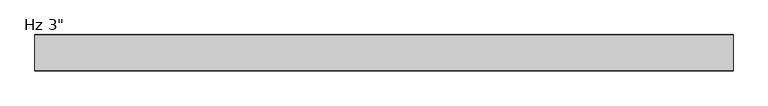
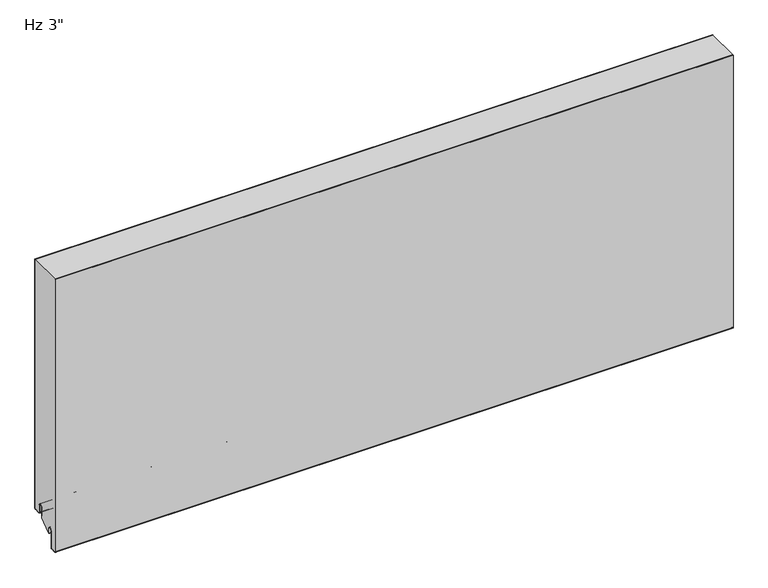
"""IFC4 building model written with IfcOpenShell, lengths in millimetres: plate geometry."""

import ifcopenshell
import ifcopenshell.guid

model = None  # the IFC model being written
_history = None  # IfcOwnerHistory: only IFC2X3 demands one
_inside = {}  # id of a spatial element -> (the spatial element, [elements in it])
_under = {}  # id of a project, library or spatial element -> (it, [spatial elements below it])
_declared = {}  # id of a project -> (the project, [libraries it declares])
_typed = {}  # id of a type object -> (the type object, [elements of that type])
_made_of = {}  # id of a material, layer set ... -> (it, [elements and type objects made of it])


def new_model(schema):
    """Start an empty IFC model of exactly this schema.

    Asked for "IFC4X3", IfcOpenShell would pick the latest addendum, in which some entities
    have other attributes; the version numbers below select the first issue.
    IFC2X3 requires an IfcOwnerHistory on every rooted entity: one is made here for all.
    """
    global model, _history
    if schema == "IFC4X3":
        model = ifcopenshell.file(schema_version=(4, 3, 0, 0))
    else:
        model = ifcopenshell.file(schema=schema)
    _inside.clear()
    _under.clear()
    _declared.clear()
    _typed.clear()
    _made_of.clear()
    _history = None
    if model.schema == "IFC2X3":
        org = make("IfcOrganization", Name="unknown")
        user = make(
            "IfcPersonAndOrganization",
            ThePerson=make("IfcPerson", FamilyName="unknown"),
            TheOrganization=org,
        )
        app = make(
            "IfcApplication",
            ApplicationDeveloper=org,
            Version="unknown",
            ApplicationFullName="unknown",
            ApplicationIdentifier="unknown",
        )
        _history = make(
            "IfcOwnerHistory",
            OwningUser=user,
            OwningApplication=app,
            ChangeAction="ADDED",
            CreationDate=0,
        )
    return model


def make(cls, **values):
    """One entity of the class cls with the attributes given. An attribute that is None is left unset."""
    return model.create_entity(
        cls, **{name: value for name, value in values.items() if value is not None}
    )


def rooted(cls, **values):
    """An entity with a GlobalId (a new one), such as an element, a storey or a relation."""
    return make(cls, GlobalId=ifcopenshell.guid.new(), OwnerHistory=_history, **values)


def si_unit(unit_type, name, prefix=None):
    """IfcSIUnit, for example si_unit("LENGTHUNIT", "METRE", prefix="MILLI")."""
    return make("IfcSIUnit", UnitType=unit_type, Prefix=prefix, Name=name)


def assignment(units):
    """IfcUnitAssignment: the units of a project."""
    return None if units is None else make("IfcUnitAssignment", Units=units)


def point(xyz):
    """IfcCartesianPoint."""
    return None if xyz is None else make("IfcCartesianPoint", Coordinates=xyz)


def direction(xyz):
    """IfcDirection."""
    return None if xyz is None else make("IfcDirection", DirectionRatios=xyz)


def frame(location, z_axis=None, x_axis=None):
    """IfcAxis2Placement3D, a coordinate frame: its origin and axes. An axis left out is left unset."""
    return make(
        "IfcAxis2Placement3D",
        Location=point(location),
        Axis=direction(z_axis),
        RefDirection=direction(x_axis),
    )


def frame_2d(location, x_axis=None):
    """IfcAxis2Placement2D, a coordinate frame in the plane: its origin and x axis."""
    return make(
        "IfcAxis2Placement2D", Location=point(location), RefDirection=direction(x_axis)
    )


def origin():
    """The frame at (0, 0, 0) with its axes left unset."""
    return frame((0.0, 0.0, 0.0))


def place(relative_to, where):
    """IfcLocalPlacement: puts the frame where relative to a parent placement (None: the world)."""
    return make(
        "IfcLocalPlacement", PlacementRelTo=relative_to, RelativePlacement=where
    )


def context(
    kind, dimensions, precision=None, world=None, true_north=None, identifier=None
):
    """IfcGeometricRepresentationContext, for example the 3D "Model" context."""
    return make(
        "IfcGeometricRepresentationContext",
        ContextIdentifier=identifier,
        ContextType=kind,
        CoordinateSpaceDimension=dimensions,
        Precision=precision,
        WorldCoordinateSystem=world,
        TrueNorth=true_north,
    )


def project(units=None, contexts=None):
    """IfcProject with its units and contexts."""
    return rooted(
        "IfcProject",
        Name="project",
        RepresentationContexts=contexts,
        UnitsInContext=assignment(units),
    )


def spatial(cls, under=None, at=None, **own):
    """A site, building, storey or space (cls), placed at a placement, below another one or the project."""
    s = rooted(cls, ObjectPlacement=at, **own)
    if under is not None:
        _under.setdefault(under.id(), (under, []))[1].append(s)
    return s


def polyline(points):
    """IfcPolyline through the points."""
    return make("IfcPolyline", Points=[point(p) for p in points])


def circle_curve(where, radius):
    """IfcCircle in the frame where."""
    return make("IfcCircle", Position=where, Radius=radius)


def trimmed(basis, trim1, trim2, sense, master):
    """IfcTrimmedCurve: the piece of a basis curve between two trims."""
    return make(
        "IfcTrimmedCurve",
        BasisCurve=basis,
        Trim1=trim1,
        Trim2=trim2,
        SenseAgreement=sense,
        MasterRepresentation=master,
    )


def segment(curve, same_sense, transition):
    """IfcCompositeCurveSegment."""
    return make(
        "IfcCompositeCurveSegment",
        Transition=transition,
        SameSense=same_sense,
        ParentCurve=curve,
    )


def composite_curve(segments, self_intersect=None):
    """IfcCompositeCurve: segments joined end to end."""
    return make("IfcCompositeCurve", Segments=segments, SelfIntersect=self_intersect)


def outline(outer, holes=None, kind="AREA"):
    """IfcArbitraryClosedProfileDef: a profile drawn as a closed curve; with holes, ...WithVoids."""
    if holes is None:
        return make("IfcArbitraryClosedProfileDef", ProfileType=kind, OuterCurve=outer)
    return make(
        "IfcArbitraryProfileDefWithVoids",
        ProfileType=kind,
        OuterCurve=outer,
        InnerCurves=holes,
    )


def extrude(swept, where, along, depth):
    """IfcExtrudedAreaSolid: the profile swept, set in the frame where, extruded along a direction by depth."""
    return make(
        "IfcExtrudedAreaSolid",
        SweptArea=swept,
        Position=where,
        ExtrudedDirection=direction(along),
        Depth=depth,
    )


def shape(context_of_items, identifier, shape_type, items):
    """IfcShapeRepresentation: the items that make up one representation, for example the "Body"."""
    return make(
        "IfcShapeRepresentation",
        ContextOfItems=context_of_items,
        RepresentationIdentifier=identifier,
        RepresentationType=shape_type,
        Items=items,
    )


def source(mapping_origin, context_of_items, identifier, shape_type, items):
    """IfcRepresentationMap: a shape defined once, which mapped items show again and again."""
    return make(
        "IfcRepresentationMap",
        MappingOrigin=mapping_origin,
        MappedRepresentation=shape(context_of_items, identifier, shape_type, items),
    )


def transform(
    local_origin,
    x_axis=None,
    y_axis=None,
    z_axis=None,
    scale=None,
    scale2=None,
    scale3=None,
    uniform=True,
):
    """IfcCartesianTransformationOperator3D, or its non-uniform kind. x_axis, y_axis, z_axis: its Axis1, 2, 3."""
    if uniform:
        return make(
            "IfcCartesianTransformationOperator3D",
            Axis1=direction(x_axis),
            Axis2=direction(y_axis),
            LocalOrigin=point(local_origin),
            Scale=scale,
            Axis3=direction(z_axis),
        )
    return make(
        "IfcCartesianTransformationOperator3DnonUniform",
        Axis1=direction(x_axis),
        Axis2=direction(y_axis),
        LocalOrigin=point(local_origin),
        Scale=scale,
        Axis3=direction(z_axis),
        Scale2=scale2,
        Scale3=scale3,
    )


def mapped(mapping_source, mapping_target):
    """IfcMappedItem: shows the shape of a source again, moved by a transform."""
    return make(
        "IfcMappedItem", MappingSource=mapping_source, MappingTarget=mapping_target
    )


def made_of(thing, what):
    """Note that an element or type object is made of a material, layer set ...; save() writes the relation."""
    if what is not None:
        _made_of.setdefault(what.id(), (what, []))[1].append(thing)
    return thing


def element(
    cls,
    number,
    at=None,
    inside=None,
    cuts=None,
    type_object=None,
    material=None,
    context=None,
    identifier="Body",
    shape_type=None,
    held_by="IfcProductDefinitionShape",
    body=None,
    shapes=None,
    **own,
):
    """One element of the class cls, such as IfcWall. Its Tag is "e" and its number.

    at: its placement. inside: the storey or other place that contains it. cuts: it is an
    opening in that element (IfcRelVoidsElement). A single representation is given by context,
    identifier, shape_type and body (its items); several are given by shapes. held_by: the class
    of the entity that holds the representations. save() writes the other relations.
    """
    e = rooted(cls, Tag="e%d" % number, ObjectPlacement=at, **own)
    if body is not None:
        shapes = [shape(context, identifier, shape_type, body)]
    if shapes is not None:
        e.Representation = make(held_by, Representations=shapes)
    if inside is not None:
        _inside.setdefault(inside.id(), (inside, []))[1].append(e)
    if cuts is not None:
        rooted(
            "IfcRelVoidsElement", RelatingBuildingElement=cuts, RelatedOpeningElement=e
        )
    if type_object is not None:
        _typed.setdefault(type_object.id(), (type_object, []))[1].append(e)
    return made_of(e, material)


def aggregate(whole, parts):
    """IfcRelAggregates: a whole, such as a stair, and the parts it consists of."""
    return rooted("IfcRelAggregates", RelatingObject=whole, RelatedObjects=parts)


def save(model, path):
    """Write the relations noted so far, then the file.

    IfcRelAggregates (storeys below a building ...), IfcRelContainedInSpatialStructure (elements
    in a storey), IfcRelDefinesByType, IfcRelAssociatesMaterial and IfcRelDeclares: one each for
    every whole, place, type object, material and project.
    """
    for whole, parts in _under.values():
        aggregate(whole, parts)
    for where, things in _inside.values():
        rooted(
            "IfcRelContainedInSpatialStructure",
            RelatedElements=things,
            RelatingStructure=where,
        )
    for kind, things in _typed.values():
        rooted("IfcRelDefinesByType", RelatedObjects=things, RelatingType=kind)
    for what, things in _made_of.values():
        rooted("IfcRelAssociatesMaterial", RelatedObjects=things, RelatingMaterial=what)
    for by, libraries in _declared.values():
        rooted("IfcRelDeclares", RelatingContext=by, RelatedDefinitions=libraries)
    model.write(path)


def plate_c719a7a9(model_context):
    return source(origin(), model_context, "Body", "SweptSolid", [
        extrude(outline(composite_curve([segment(trimmed(circle_curve(frame_2d((-21.43125, 19.05)), 4.96875), [point((-16.4625, 19.05))], [point((-26.4, 19.05))], True, "CARTESIAN"), True, "CONTINUOUS"), segment(polyline([(-26.4, 19.05), (-26.4, -3.1323422), (-49.2157227, -23.01875), (-50.8, -23.01875), (-50.8, -13.5080174), (-51.59375, -13.5080174), (-51.3875, -11.9205174)]), True, "CONTINUOUS"), segment(trimmed(circle_curve(frame_2d((-56.35625, -11.9205174)), 4.96875), [point((-51.3875, -11.9205174))], [point((-61.325, -11.9205174))], True, "CARTESIAN"), True, "CONTINUOUS"), segment(polyline([(-61.325, -11.9205174), (-61.325, -50.1038221)]), True, "CONTINUOUS"), segment(trimmed(circle_curve(frame_2d((-62.70625, -50.1038221)), 1.38125), [point((-61.325, -50.1038221))], [point((-62.633961, -51.4831791))], False, "CARTESIAN"), True, "CONTINUOUS"), segment(polyline([(-62.633961, -51.4831791), (-73.746461, -52.0655606)]), True, "CONTINUOUS"), segment(trimmed(circle_curve(frame_2d((-73.81875, -50.6862035)), 1.38125), [point((-73.746461, -52.0655606))], [point((-75.2, -50.6862035))], False, "CARTESIAN"), True, "CONTINUOUS"), segment(polyline([(-75.2, -50.6862035), (-75.2, 570.0), (-1.0, 570.0), (-1.0, 3.175)]), True, "CONTINUOUS"), segment(trimmed(circle_curve(frame_2d((-2.38125, 3.175)), 1.38125), [point((-1.0, 3.175))], [point((-2.38125, 1.79375))], False, "CARTESIAN"), True, "CONTINUOUS"), segment(polyline([(-2.38125, 1.79375), (-15.08125, 1.79375)]), True, "CONTINUOUS"), segment(trimmed(circle_curve(frame_2d((-15.08125, 3.175)), 1.38125), [point((-15.08125, 1.79375))], [point((-16.4625, 3.175))], False, "CARTESIAN"), True, "CONTINUOUS"), segment(polyline([(-16.4625, 3.175), (-16.4625, 19.05)]), True, "CONTINUOUS")], self_intersect=False)), frame((-730.0, 0.0, 0.0), z_axis=(1.0, 0.0, 0.0), x_axis=(0.0, 1.0, 0.0)), (0.0, 0.0, 1.0), 1460.0),
        extrude(outline(composite_curve([segment(polyline([(-25.4, 0.79375), (-26.4, 0.79375), (-26.4, 19.05)]), True, "CONTINUOUS"), segment(trimmed(circle_curve(frame_2d((-21.43125, 19.05)), 4.96875), [point((-26.4, 19.05))], [point((-16.4625, 19.05))], False, "CARTESIAN"), True, "CONTINUOUS"), segment(polyline([(-16.4625, 19.05), (-16.4625, 3.175)]), True, "CONTINUOUS"), segment(trimmed(circle_curve(frame_2d((-15.08125, 3.175)), 1.38125), [point((-16.4625, 3.175))], [point((-15.08125, 1.79375))], True, "CARTESIAN"), True, "CONTINUOUS"), segment(polyline([(-15.08125, 1.79375), (-2.38125, 1.79375)]), True, "CONTINUOUS"), segment(trimmed(circle_curve(frame_2d((-2.38125, 3.175)), 1.38125), [point((-2.38125, 1.79375))], [point((-1.0, 3.175))], True, "CARTESIAN"), True, "CONTINUOUS"), segment(polyline([(-1.0, 3.175), (-1.0, 570.0), (0.0, 570.0), (0.0, 3.175)]), True, "CONTINUOUS"), segment(trimmed(circle_curve(frame_2d((-2.38125, 3.175)), 2.38125), [point((0.0, 3.175))], [point((-2.38125, 0.79375))], False, "CARTESIAN"), True, "CONTINUOUS"), segment(polyline([(-2.38125, 0.79375), (-15.08125, 0.79375)]), True, "CONTINUOUS"), segment(trimmed(circle_curve(frame_2d((-15.08125, 3.175)), 2.38125), [point((-15.08125, 0.79375))], [point((-17.4625, 3.175))], False, "CARTESIAN"), True, "CONTINUOUS"), segment(polyline([(-17.4625, 3.175), (-17.4625, 19.05)]), True, "CONTINUOUS"), segment(trimmed(circle_curve(frame_2d((-21.43125, 19.05)), 3.96875), [point((-17.4625, 19.05))], [point((-25.4, 19.05))], True, "CARTESIAN"), True, "CONTINUOUS"), segment(polyline([(-25.4, 19.05), (-25.4, 0.79375)]), True, "CONTINUOUS")], self_intersect=False)), frame((-730.0, 0.0, 0.0), z_axis=(1.0, 0.0, 0.0), x_axis=(0.0, 1.0, 0.0)), (0.0, 0.0, 1.0), 1460.0),
        extrude(outline(composite_curve([segment(trimmed(circle_curve(frame_2d((-51.59375, -23.2314549)), 0.79375), [point((-50.8, -23.2314549))], [point((-52.3875, -23.2314549))], False, "CARTESIAN"), True, "CONTINUOUS"), segment(polyline([(-52.3875, -23.2314549), (-52.3875, -11.9205174)]), True, "CONTINUOUS"), segment(trimmed(circle_curve(frame_2d((-56.35625, -11.9205174)), 3.96875), [point((-52.3875, -11.9205174))], [point((-60.325, -11.9205174))], True, "CARTESIAN"), True, "CONTINUOUS"), segment(polyline([(-60.325, -11.9205174), (-60.325, -50.1038221)]), True, "CONTINUOUS"), segment(trimmed(circle_curve(frame_2d((-62.70625, -50.1038221)), 2.38125), [point((-60.325, -50.1038221))], [point((-62.581625, -52.4818086))], False, "CARTESIAN"), True, "CONTINUOUS"), segment(polyline([(-62.581625, -52.4818086), (-73.694125, -53.0641901)]), True, "CONTINUOUS"), segment(trimmed(circle_curve(frame_2d((-73.81875, -50.6862035)), 2.38125), [point((-73.694125, -53.0641901))], [point((-76.2, -50.6862035))], False, "CARTESIAN"), True, "CONTINUOUS"), segment(polyline([(-76.2, -50.6862035), (-76.2, 570.0), (-75.2, 570.0), (-75.2, -50.6862035)]), True, "CONTINUOUS"), segment(trimmed(circle_curve(frame_2d((-73.81875, -50.6862035)), 1.38125), [point((-75.2, -50.6862035))], [point((-73.746461, -52.0655606))], True, "CARTESIAN"), True, "CONTINUOUS"), segment(polyline([(-73.746461, -52.0655606), (-62.633961, -51.4831791)]), True, "CONTINUOUS"), segment(trimmed(circle_curve(frame_2d((-62.70625, -50.1038221)), 1.38125), [point((-62.633961, -51.4831791))], [point((-61.325, -50.1038221))], True, "CARTESIAN"), True, "CONTINUOUS"), segment(polyline([(-61.325, -50.1038221), (-61.325, -11.9205174)]), True, "CONTINUOUS"), segment(trimmed(circle_curve(frame_2d((-56.35625, -11.9205174)), 4.96875), [point((-61.325, -11.9205174))], [point((-51.3875, -11.9205174))], False, "CARTESIAN"), True, "CONTINUOUS"), segment(polyline([(-51.3875, -11.9205174), (-51.59375, -13.5080174), (-50.8, -13.5080174), (-50.8, -23.2314549)]), True, "CONTINUOUS")], self_intersect=False)), frame((-730.0, 0.0, 0.0), z_axis=(1.0, 0.0, 0.0), x_axis=(0.0, 1.0, 0.0)), (0.0, 0.0, 1.0), 1460.0),
    ])


if __name__ == "__main__":
    model = new_model("IFC4")
    model_context = context("Model", 3, world=origin())
    ifc_project = project(units=[si_unit("LENGTHUNIT", "METRE", prefix="MILLI")], contexts=[model_context])
    site = spatial("IfcSite", under=ifc_project)
    building = spatial("IfcBuilding", under=site)
    placement = place(None, origin())
    plate_shape = plate_c719a7a9(model_context)
    element("IfcPlate", 1, ObjectType="KIP-36-DWTR-R19-CP-Hz-F : Hz 3\"", at=placement, inside=building, context=model_context, shape_type="MappedRepresentation", body=[
        mapped(plate_shape, transform((0.0, 0.0, 0.0), x_axis=(1.0, 0.0, 0.0), y_axis=(0.0, 1.0, 0.0), z_axis=(0.0, 0.0, 1.0))),
    ])
    save(model, "model.ifc")
